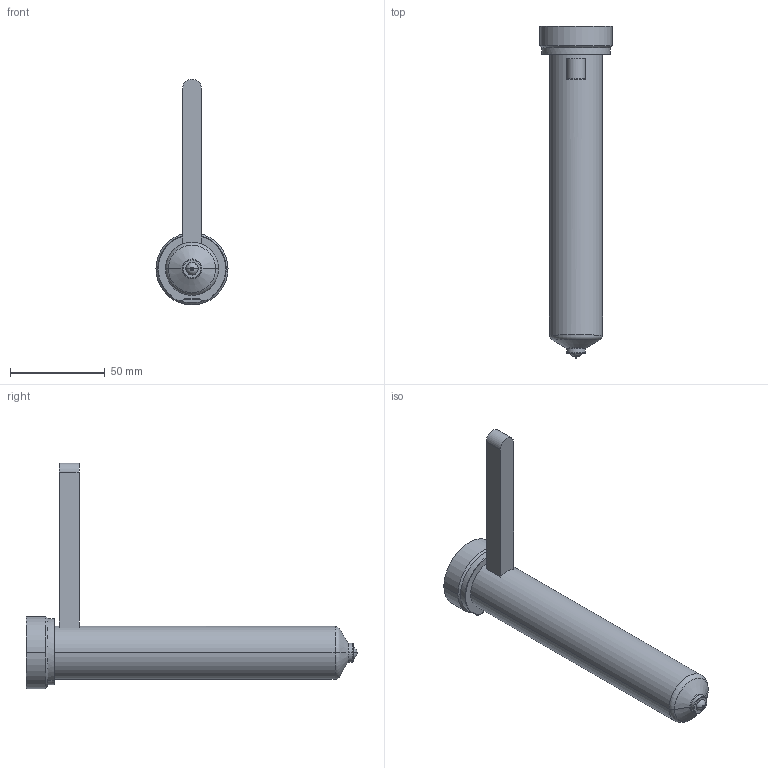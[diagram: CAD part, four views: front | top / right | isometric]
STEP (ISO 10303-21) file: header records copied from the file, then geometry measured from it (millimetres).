
FILE_DESCRIPTION((''),'2;1');
FILE_NAME('EO06_PG-BL_WR_160_COT','2024-02-19T11:04:27',('sundharh'),(''),'CREO PARAMETRIC BY PTC INC, 2023154','CREO PARAMETRIC BY PTC INC, 2023154','');
FILE_SCHEMA(('CONFIG_CONTROL_DESIGN'));
Length unit declared in the file: millimetre
Products named in the file (1): EO06_PG-BL_WR_160_COT
Bounding box: 38 x 175 x 119 mm (x, y, z)
Volume: 119361.1 mm3; surface area: 20746.5 mm2
Topology: 1 solids, 1 shells, 40 faces, 85 edges, 50 vertices
Faces by surface type: cylinder 13, plane 10, torus 9, cone 6, sphere 2
Entity records: 1197 total; most frequent: CARTESIAN_POINT 267, DIRECTION 209, ORIENTED_EDGE 170, AXIS2_PLACEMENT_3D 90, EDGE_CURVE 85, VERTEX_POINT 50, CIRCLE 50, EDGE_LOOP 43
